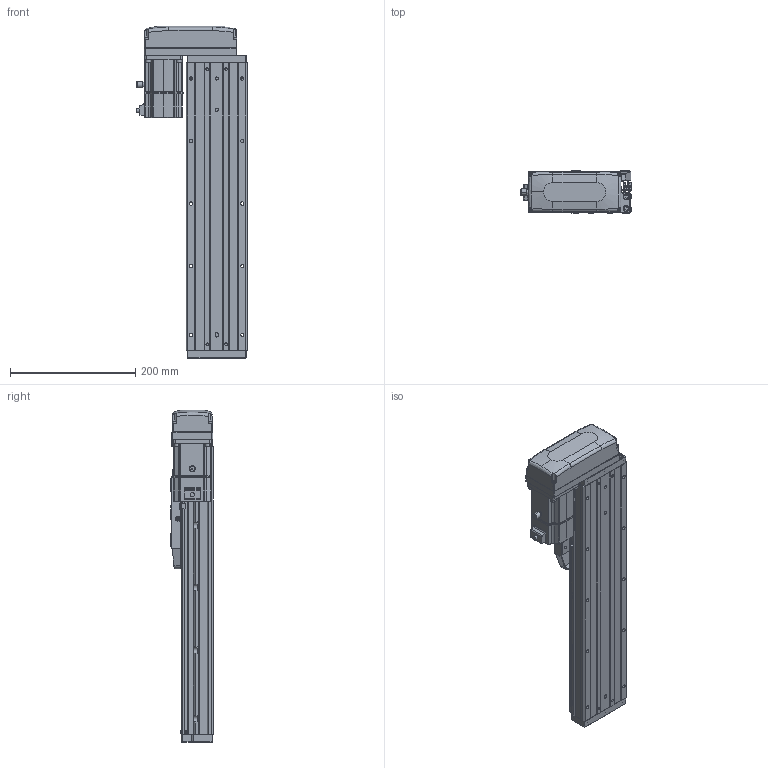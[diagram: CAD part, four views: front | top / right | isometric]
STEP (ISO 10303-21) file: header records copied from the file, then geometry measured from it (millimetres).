
FILE_DESCRIPTION (( 'STEP AP203' ), '1' );
FILE_NAME ('CTHA100-250-BL-M20-C4L.step', '2022-07-06T09:08:05', ( '微软用户' ), ( '微软中国' ), 'SwSTEP 2.0', 'SolidWorks 2020', '' );
FILE_SCHEMA (( 'CONFIG_CONTROL_DESIGN' ));
Length unit declared in the file: millimetre
Products named in the file (19): GB¨uT 70.2-M3¡Á5_M3¡Á6; CTHA60-016; CTHA86-033; EE_SX911P_R; _X2_4E0983F1_X0_200W_1; CTHA100-250-BL-M20-C4L; CTHA60-017; CTHA100-002; CTHA60-021; CTHA100-031; KTHA100-001_460; GBT77-2000 M3×3; CTHA86-030; KTHA100-004; GBT 70.1-M3℅6; GBT 70.3-M3℅6; KTHA100-005; GBT70.1 M5℅16; CTHA86-015-1_CTHA86-015-2
Assembly tree (64 placements, depth 2):
  CTHA100-250-BL-M20-C4L
    KTHA100-001_460
    KTHA100-004
    KTHA100-005
    GB¨uT 70.2-M3¡Á5_M3¡Á6  x10
    EE_SX911P_R  x3
    CTHA60-017  x3
    CTHA60-021  x2
    GBT77-2000 M3×3  x6
    GBT 70.1-M3℅6  x10
    GBT70.1 M5℅16  x14
    CTHA60-016  x2
    _X2_4E0983F1_X0_200W_1
    CTHA100-002
    CTHA100-031
    CTHA86-030  x2
    GBT 70.3-M3℅6  x4
    CTHA86-015-1_CTHA86-015-2
    CTHA86-033
Bounding box: 178.52 x 68 x 531 mm (x, y, z)
Volume: 2582501.6 mm3; surface area: 457753.5 mm2
Topology: 66 solids, 66 shells, 2609 faces, 6247 edges, 3868 vertices
Faces by surface type: plane 1356, cylinder 683, cone 347, torus 124, bspline 75, sphere 24
Entity records: 44054 total; most frequent: CARTESIAN_POINT 8699, DIRECTION 6764, ORIENTED_EDGE 6610, EDGE_CURVE 3305, AXIS2_PLACEMENT_3D 2305, VECTOR 2154, LINE 2154, VERTEX_POINT 2088
